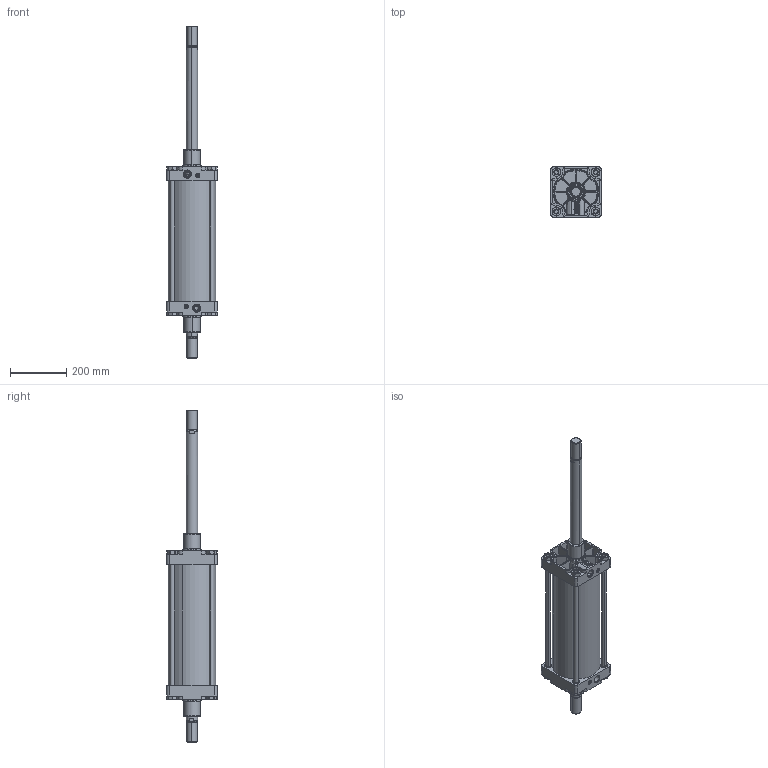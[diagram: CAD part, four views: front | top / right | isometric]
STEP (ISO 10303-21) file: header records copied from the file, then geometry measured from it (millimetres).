
FILE_DESCRIPTION (( 'STEP AP203' ), '1' );
FILE_NAME ('SC160X350ÇÝFT-MÝLLÝ-CYLÝNDER.STEP', '2015-04-02T06:38:50', ( 'user' ), ( '' ), 'SwSTEP 2.0', 'SolidWorks 2013', '' );
FILE_SCHEMA (( 'CONFIG_CONTROL_DESIGN' ));
Length unit declared in the file: millimetre
Products named in the file (8): SC Piston Mili 160x350; SC SAPLAMALI P¦STON M¦L¦  160x350; SC160X350ÇÝFT-MÝLLÝ-CYLÝNDER; SC 泩 KAPAK  160; SC ORTA P¦STON Ã¦FT M¦LL¦ 160; SC 160x350 BORU; SC SAPLAMA SOMUN 160; SC 160x350 SAPLAMA
Assembly tree (18 placements, depth 2):
  SC160X350ÇÝFT-MÝLLÝ-CYLÝNDER
    SC 泩 KAPAK  160  x2
    SC ORTA P¦STON Ã¦FT M¦LL¦ 160
    SC 160x350 BORU
    SC SAPLAMA SOMUN 160  x8
    SC 160x350 SAPLAMA  x4
    SC Piston Mili 160x350
    SC SAPLAMALI P¦STON M¦L¦  160x350
Bounding box: 180 x 180 x 1184 mm (x, y, z)
Volume: 5362158.6 mm3; surface area: 1353837.5 mm2
Topology: 18 solids, 18 shells, 1413 faces, 3562 edges, 2246 vertices
Faces by surface type: cylinder 494, plane 379, cone 328, bspline 212
Entity records: 29220 total; most frequent: CARTESIAN_POINT 12263, ORIENTED_EDGE 3464, DIRECTION 3175, EDGE_CURVE 1732, AXIS2_PLACEMENT_3D 1271, VERTEX_POINT 1099, EDGE_LOOP 751, FACE_OUTER_BOUND 686
